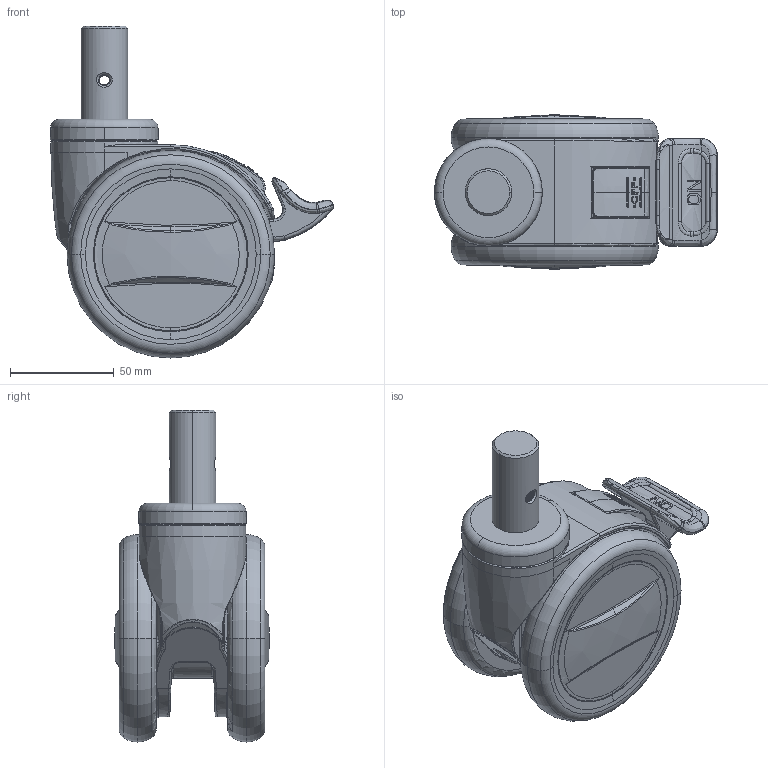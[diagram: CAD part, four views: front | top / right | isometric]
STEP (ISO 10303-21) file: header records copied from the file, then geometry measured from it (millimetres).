
FILE_DESCRIPTION(/* description */ (''),/* implementation_level */ '2;1');
FILE_NAME(/* name */ '80T16_4_F.stp',/* time_stamp */ '2022-10-17T15:58:29+08:00',/* author */ (''),/* organization */ (''),/* preprocessor_version */ 'ST-DEVELOPER v14',/* originating_system */ 'SIEMENS PLM Software NX 8.0',/* authorisation */ '');
FILE_SCHEMA (('AUTOMOTIVE_DESIGN { 1 0 10303 214 3 1 1 1 }'));
Length unit declared in the file: millimetre
Products named in the file (1): 80T16_4_F
Bounding box: 136.53 x 74.5 x 160 mm (x, y, z)
Volume: 380107.4 mm3; surface area: 175162.3 mm2
Topology: 1 solids, 11 shells, 3495 faces, 10209 edges, 6671 vertices
Faces by surface type: plane 1428, cylinder 1055, bspline 438, cone 366, torus 154, sphere 54
Full cylindrical faces by diameter (mm): 35 x1
Entity records: 153773 total; most frequent: CARTESIAN_POINT 65366, ORIENTED_EDGE 20640, DIRECTION 16502, EDGE_CURVE 10320, VERTEX_POINT 6825, AXIS2_PLACEMENT_3D 6187, LINE 4128, VECTOR 4128
